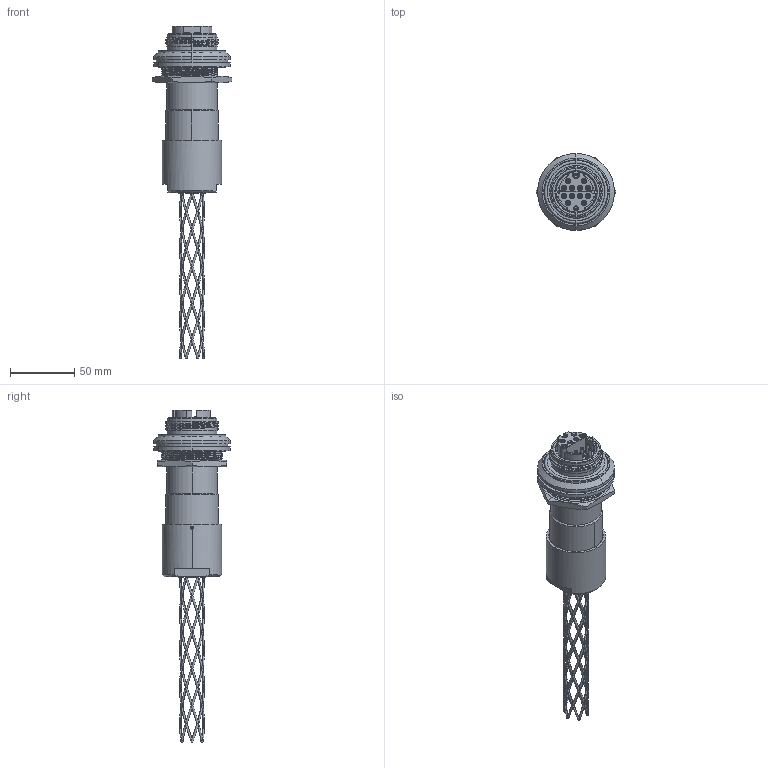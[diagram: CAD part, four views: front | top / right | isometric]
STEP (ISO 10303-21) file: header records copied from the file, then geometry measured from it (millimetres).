
FILE_DESCRIPTION (( 'STEP AP214' ), '1' );
FILE_NAME ('QFOCA-G1-RLXX-12CH-X-GXXX.STEP', '2025-06-09T19:30:46', ( '' ), ( '' ), 'SwSTEP 2.0', 'SolidWorks 2024', '' );
FILE_SCHEMA (( 'AUTOMOTIVE_DESIGN' ));
Length unit declared in the file: inch
Products named in the file (1): QFOCA-G1-RLXX-12CH-X-GXXX
Bounding box: 62.33 x 60.07 x 259.12 mm (x, y, z)
Volume: 196874.5 mm3; surface area: 48243.6 mm2
Topology: 9 solids, 19 shells, 880 faces, 2203 edges, 1284 vertices
Faces by surface type: bspline 256, cylinder 226, plane 158, cone 132, torus 108
Entity records: 131351 total; most frequent: CARTESIAN_POINT 112955, ORIENTED_EDGE 4396, DIRECTION 3323, EDGE_CURVE 2198, AXIS2_PLACEMENT_3D 1391, VERTEX_POINT 1284, EDGE_LOOP 948, ADVANCED_FACE 880
